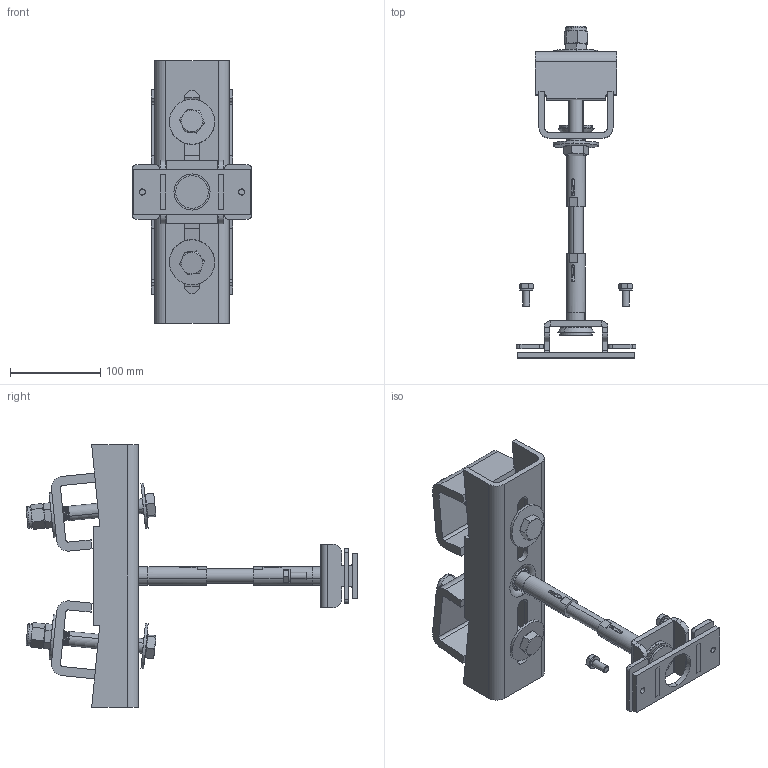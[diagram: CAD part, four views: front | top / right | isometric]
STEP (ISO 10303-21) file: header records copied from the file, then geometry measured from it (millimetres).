
FILE_DESCRIPTION (( 'STEP AP214' ), '1' );
FILE_NAME ('900.100.111.STEP', '2015-02-23T15:37:56', ( '' ), ( '' ), 'SwSTEP 2.0', 'SolidWorks 2012', '' );
FILE_SCHEMA (( 'AUTOMOTIVE_DESIGN' ));
Length unit declared in the file: millimetre
Products named in the file (14): hex thin nut chamfered gradeab_iso_Hexagon Thin Nut ISO - 4035 - M16 - N; torque nut 01_iso_ISO 7040-M16-N; 900.100.029; 900.100.028; 900.100.027; VITI TE UNI 5739_M8x20 UNI 5739; curved spring lock washer_din_Spring washer DIN 128 - A10; 900.100.017; 900.100.002-1; hex bolt gradeab_iso_ISO 4014 - M16 x 130 x 44-S; 900.100.111; 900.100.015; plain washer large_din_Washer DIN 9021 - 10.5; 900.100.037
Assembly tree (25 placements, depth 2):
  900.100.111
    900.100.015
    900.100.002-1  x2
    hex bolt gradeab_iso_ISO 4014 - M16 x 130 x 44-S  x2
    plain washer large_din_Washer DIN 9021 - 10.5  x4
    900.100.027  x2
    VITI TE UNI 5739_M8x20 UNI 5739  x2
    curved spring lock washer_din_Spring washer DIN 128 - A10  x2
    900.100.017  x2
    hex thin nut chamfered gradeab_iso_Hexagon Thin Nut ISO - 4035 - M16 - N  x2
    torque nut 01_iso_ISO 7040-M16-N  x2
    900.100.029
    900.100.028
    900.100.037  x2
Bounding box: 132 x 366.96 x 290 mm (x, y, z)
Volume: 783600.2 mm3; surface area: 275772.8 mm2
Topology: 26 solids, 26 shells, 781 faces, 1919 edges, 1192 vertices
Faces by surface type: cone 280, plane 236, cylinder 233, torus 20, sphere 12
Entity records: 14754 total; most frequent: CARTESIAN_POINT 3143, DIRECTION 2435, ORIENTED_EDGE 2206, EDGE_CURVE 1103, AXIS2_PLACEMENT_3D 951, VERTEX_POINT 687, VECTOR 533, LINE 533
